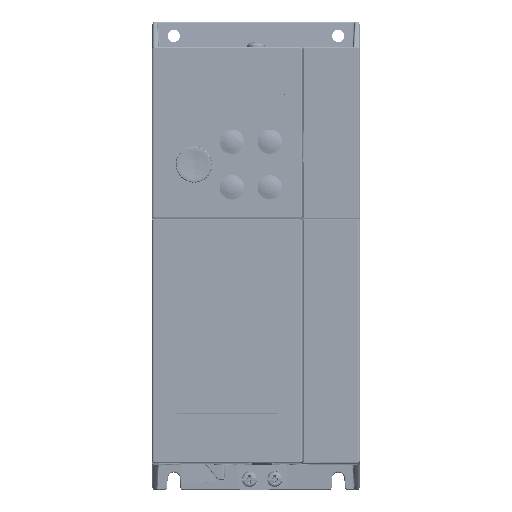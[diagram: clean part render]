
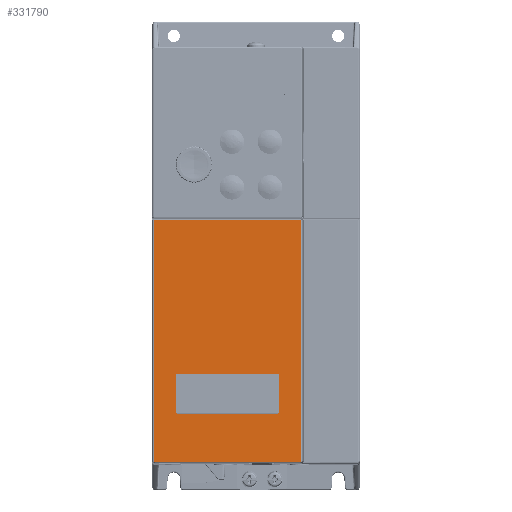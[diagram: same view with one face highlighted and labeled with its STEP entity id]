
A CAD part, top view. The second image highlights one B-rep face of the part: STEP entity #331790.
In plain terms, the highlighted planar face has unit normal (0, 0, 1).
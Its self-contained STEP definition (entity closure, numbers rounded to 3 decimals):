
#327084=DIRECTION('',(1.,0.,0.));
#327085=VECTOR('',#327084,58.215);
#327086=CARTESIAN_POINT('',(0.6,-68.5,0.));
#327087=LINE('',#327086,#327085);
#327091=DIRECTION('',(0.,1.,0.));
#327092=VECTOR('',#327091,95.162);
#327093=CARTESIAN_POINT('',(58.815,-163.662,0.));
#327094=LINE('',#327093,#327092);
#327098=CARTESIAN_POINT('',(58.415,-164.061,0.));
#327099=CARTESIAN_POINT('',(58.446,-164.061,0.));
#327100=CARTESIAN_POINT('',(58.504,-164.054,0.));
#327101=CARTESIAN_POINT('',(58.578,-164.029,0.));
#327102=CARTESIAN_POINT('',(58.639,-163.995,0.));
#327103=CARTESIAN_POINT('',(58.688,-163.956,0.));
#327104=CARTESIAN_POINT('',(58.726,-163.915,0.));
#327105=CARTESIAN_POINT('',(58.755,-163.874,0.));
#327106=CARTESIAN_POINT('',(58.777,-163.834,0.));
#327107=CARTESIAN_POINT('',(58.794,-163.793,0.));
#327108=CARTESIAN_POINT('',(58.806,-163.752,0.));
#327109=CARTESIAN_POINT('',(58.813,-163.709,0.));
#327110=CARTESIAN_POINT('',(58.815,-163.678,0.));
#327111=CARTESIAN_POINT('',(58.815,-163.662,0.));
#327116=DIRECTION('',(1.,0.,0.));
#327117=VECTOR('',#327116,57.415);
#327118=CARTESIAN_POINT('',(1.,-164.061,0.));
#327119=LINE('',#327118,#327117);
#327123=CARTESIAN_POINT('',(0.6,-163.661,0.));
#327124=CARTESIAN_POINT('',(0.6,-163.705,0.));
#327125=CARTESIAN_POINT('',(0.613,-163.785,0.));
#327126=CARTESIAN_POINT('',(0.666,-163.891,0.));
#327127=CARTESIAN_POINT('',(0.736,-163.967,0.));
#327128=CARTESIAN_POINT('',(0.812,-164.018,0.));
#327129=CARTESIAN_POINT('',(0.895,-164.051,0.));
#327130=CARTESIAN_POINT('',(0.963,-164.061,0.));
#327131=CARTESIAN_POINT('',(1.,-164.061,0.));
#327136=DIRECTION('',(0.,-1.,0.));
#327137=VECTOR('',#327136,95.161);
#327138=CARTESIAN_POINT('',(0.6,-68.5,0.));
#327139=LINE('',#327138,#327137);
#327143=DIRECTION('',(0.,1.,0.));
#327144=VECTOR('',#327143,15.262);
#327145=CARTESIAN_POINT('',(50.031,-144.881,0.));
#327146=LINE('',#327145,#327144);
#327150=DIRECTION('',(-1.,0.,0.));
#327151=VECTOR('',#327150,40.262);
#327152=CARTESIAN_POINT('',(49.881,-129.469,0.));
#327153=LINE('',#327152,#327151);
#327157=DIRECTION('',(0.,-1.,0.));
#327158=VECTOR('',#327157,15.262);
#327159=CARTESIAN_POINT('',(9.469,-129.619,0.));
#327160=LINE('',#327159,#327158);
#327164=DIRECTION('',(1.,0.,0.));
#327165=VECTOR('',#327164,40.262);
#327166=CARTESIAN_POINT('',(9.619,-145.031,0.));
#327167=LINE('',#327166,#327165);
#331087=CARTESIAN_POINT('',(49.881,-129.469,0.));
#331088=CARTESIAN_POINT('',(49.931,-129.469,0.));
#331089=CARTESIAN_POINT('',(49.993,-129.507,0.));
#331090=CARTESIAN_POINT('',(50.031,-129.569,0.));
#331091=CARTESIAN_POINT('',(50.031,-129.619,0.));
#331160=CARTESIAN_POINT('',(9.469,-129.619,0.));
#331161=CARTESIAN_POINT('',(9.469,-129.569,0.));
#331162=CARTESIAN_POINT('',(9.507,-129.507,0.));
#331163=CARTESIAN_POINT('',(9.569,-129.469,0.));
#331164=CARTESIAN_POINT('',(9.619,-129.469,0.));
#331183=CARTESIAN_POINT('',(9.619,-145.031,0.));
#331184=CARTESIAN_POINT('',(9.569,-145.031,0.));
#331185=CARTESIAN_POINT('',(9.507,-144.993,0.));
#331186=CARTESIAN_POINT('',(9.469,-144.931,0.));
#331187=CARTESIAN_POINT('',(9.469,-144.881,0.));
#331206=CARTESIAN_POINT('',(50.031,-144.881,0.));
#331207=CARTESIAN_POINT('',(50.031,-144.931,0.));
#331208=CARTESIAN_POINT('',(49.993,-144.993,0.));
#331209=CARTESIAN_POINT('',(49.931,-145.031,0.));
#331210=CARTESIAN_POINT('',(49.881,-145.031,0.));
#331229=CARTESIAN_POINT('',(0.6,-163.661,0.));
#331231=VERTEX_POINT('',#331229);
#331233=CARTESIAN_POINT('',(0.6,-68.5,0.));
#331234=CARTESIAN_POINT('',(58.815,-68.5,0.));
#331235=VERTEX_POINT('',#331233);
#331236=VERTEX_POINT('',#331234);
#331281=CARTESIAN_POINT('',(58.815,-163.662,0.));
#331282=VERTEX_POINT('',#331281);
#331430=VERTEX_POINT('',#327098);
#331432=CARTESIAN_POINT('',(1.,-164.061,0.));
#331433=VERTEX_POINT('',#331432);
#331532=CARTESIAN_POINT('',(9.469,-129.619,0.));
#331533=VERTEX_POINT('',#331532);
#331534=CARTESIAN_POINT('',(9.619,-129.469,0.));
#331535=VERTEX_POINT('',#331534);
#331538=CARTESIAN_POINT('',(49.881,-129.469,0.));
#331539=VERTEX_POINT('',#331538);
#331540=CARTESIAN_POINT('',(50.031,-129.619,0.));
#331541=VERTEX_POINT('',#331540);
#331544=CARTESIAN_POINT('',(50.031,-144.881,0.));
#331545=VERTEX_POINT('',#331544);
#331546=CARTESIAN_POINT('',(49.881,-145.031,0.));
#331547=VERTEX_POINT('',#331546);
#331550=CARTESIAN_POINT('',(9.619,-145.031,0.));
#331551=VERTEX_POINT('',#331550);
#331552=CARTESIAN_POINT('',(9.469,-144.881,0.));
#331553=VERTEX_POINT('',#331552);
#331753=CARTESIAN_POINT('',(0.,0.,0.));
#331754=DIRECTION('',(0.,0.,1.));
#331755=DIRECTION('',(1.,0.,0.));
#331756=AXIS2_PLACEMENT_3D('',#331753,#331754,#331755);
#331757=PLANE('',#331756);
#331759=ORIENTED_EDGE('',*,*,#331758,.T.);
#331761=ORIENTED_EDGE('',*,*,#331760,.F.);
#331763=ORIENTED_EDGE('',*,*,#331762,.F.);
#331765=ORIENTED_EDGE('',*,*,#331764,.F.);
#331767=ORIENTED_EDGE('',*,*,#331766,.F.);
#331769=ORIENTED_EDGE('',*,*,#331768,.F.);
#331770=EDGE_LOOP('',(#331759,#331761,#331763,#331765,#331767,#331769));
#331771=FACE_OUTER_BOUND('',#331770,.F.);
#331773=ORIENTED_EDGE('',*,*,#331772,.T.);
#331775=ORIENTED_EDGE('',*,*,#331774,.F.);
#331777=ORIENTED_EDGE('',*,*,#331776,.T.);
#331779=ORIENTED_EDGE('',*,*,#331778,.F.);
#331781=ORIENTED_EDGE('',*,*,#331780,.T.);
#331783=ORIENTED_EDGE('',*,*,#331782,.F.);
#331785=ORIENTED_EDGE('',*,*,#331784,.T.);
#331787=ORIENTED_EDGE('',*,*,#331786,.F.);
#331788=EDGE_LOOP('',(#331773,#331775,#331777,#331779,#331781,#331783,#331785,
#331787));
#331789=FACE_BOUND('',#331788,.F.);
#331790=ADVANCED_FACE('',(#331771,#331789),#331757,.T.);
#327112=B_SPLINE_CURVE_WITH_KNOTS('',3,(#327098,#327099,#327100,#327101,#327102,
#327103,#327104,#327105,#327106,#327107,#327108,#327109,#327110,#327111),
.UNSPECIFIED.,.F.,.F.,(4,1,1,1,1,1,1,1,1,1,1,4),(0.,0.091,
0.182,0.273,0.364,0.455,
0.545,0.636,0.727,0.818,
0.909,1.),.UNSPECIFIED.);
#327132=B_SPLINE_CURVE_WITH_KNOTS('',3,(#327123,#327124,#327125,#327126,#327127,
#327128,#327129,#327130,#327131),.UNSPECIFIED.,.F.,.F.,(4,1,1,1,1,1,4),(0.,
0.167,0.333,0.5,0.667,0.833,
1.),.UNSPECIFIED.);
#331092=B_SPLINE_CURVE_WITH_KNOTS('',3,(#331087,#331088,#331089,#331090,
#331091),.UNSPECIFIED.,.F.,.F.,(4,1,4),(0.,0.5,1.),.UNSPECIFIED.);
#331165=B_SPLINE_CURVE_WITH_KNOTS('',3,(#331160,#331161,#331162,#331163,
#331164),.UNSPECIFIED.,.F.,.F.,(4,1,4),(0.,0.5,1.),.UNSPECIFIED.);
#331188=B_SPLINE_CURVE_WITH_KNOTS('',3,(#331183,#331184,#331185,#331186,
#331187),.UNSPECIFIED.,.F.,.F.,(4,1,4),(0.,0.5,1.),.UNSPECIFIED.);
#331211=B_SPLINE_CURVE_WITH_KNOTS('',3,(#331206,#331207,#331208,#331209,
#331210),.UNSPECIFIED.,.F.,.F.,(4,1,4),(0.,0.5,1.),.UNSPECIFIED.);
#331758=EDGE_CURVE('',#331235,#331236,#327087,.T.);
#331760=EDGE_CURVE('',#331282,#331236,#327094,.T.);
#331762=EDGE_CURVE('',#331430,#331282,#327112,.T.);
#331764=EDGE_CURVE('',#331433,#331430,#327119,.T.);
#331766=EDGE_CURVE('',#331231,#331433,#327132,.T.);
#331768=EDGE_CURVE('',#331235,#331231,#327139,.T.);
#331772=EDGE_CURVE('',#331545,#331541,#327146,.T.);
#331774=EDGE_CURVE('',#331539,#331541,#331092,.T.);
#331776=EDGE_CURVE('',#331539,#331535,#327153,.T.);
#331778=EDGE_CURVE('',#331533,#331535,#331165,.T.);
#331780=EDGE_CURVE('',#331533,#331553,#327160,.T.);
#331782=EDGE_CURVE('',#331551,#331553,#331188,.T.);
#331784=EDGE_CURVE('',#331551,#331547,#327167,.T.);
#331786=EDGE_CURVE('',#331545,#331547,#331211,.T.);
